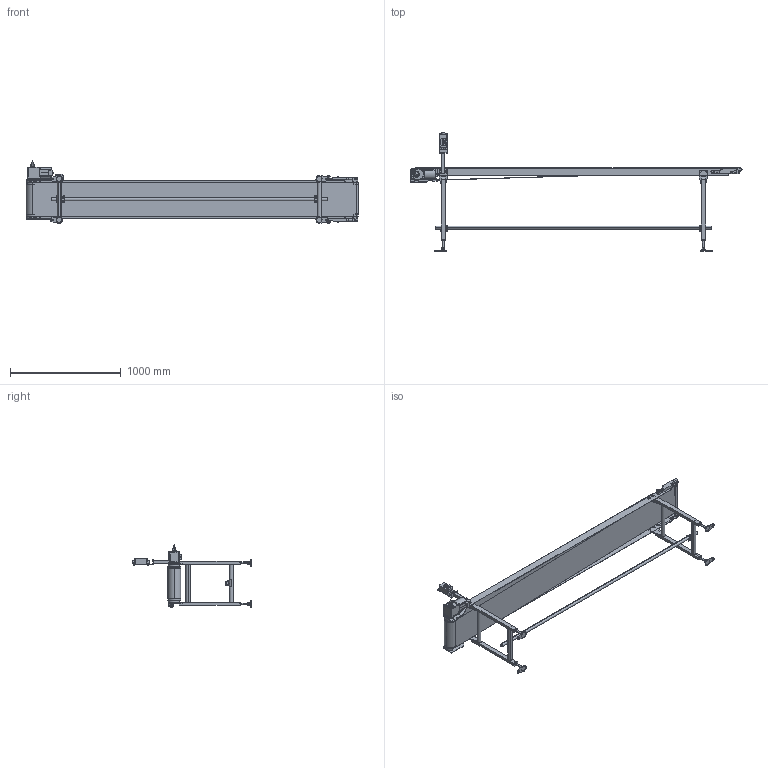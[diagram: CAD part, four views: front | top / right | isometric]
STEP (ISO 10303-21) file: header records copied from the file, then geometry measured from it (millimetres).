
FILE_DESCRIPTION( (''), '2;1');
FILE_NAME ('FB23-HS-309-300-300-L-K-100.stp','2025-02-17T10:00:11',(''),(''),'spGate 20.6.2 (****-****-****-****)','','');
FILE_SCHEMA (('AUTOMOTIVE_DESIGN'));
Length unit declared in the file: millimetre
Products named in the file (49): NewModel; FB23-HS-300-3000-L; TEMP_X_T-prt0; TEMP_X_T-prt1; TEMP_X_T-prt2; TEMP_X_T-prt3; TEMP_X_T-prt4; TEMP_X_T-prt5; TEMP_X_T-prt6; TEMP_X_T-prt7; TEMP_X_T-prt8; TEMP_X_T-prt9; TEMP_X_T-prt10; TEMP_X_T-prt11; TEMP_X_T-prt12; TEMP_X_T-prt13; TEMP_X_T-prt14; TEMP_X_T-prt15; TEMP_X_T-prt16; TEMP_X_T-prt17; TEMP_X_T-prt18; TEMP_X_T-prt19; TEMP_X_T-prt20; TEMP_X_T-prt21; TEMP_X_T-prt22; TEMP_X_T-prt23; TEMP_X_T-prt24; TEMP_X_T-prt25; TEMP_X_T-prt26; TEMP_X_T-prt27; TEMP_X_T-prt28; TEMP_X_T-prt29; TEMP_X_T-prt30; TEMP_X_T-prt31; TEMP_X_T-prt32; TEMP_X_T-prt33; TEMP_X_T-prt34; TEMP_X_T-prt35; TEMP_X_T-prt36; TEMP_X_T-prt37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
Assembly tree (48 placements, depth 3):
  NewModel
    FB23-HS-300-3000-L
      TEMP_X_T-prt0
      TEMP_X_T-prt1
      TEMP_X_T-prt2
      TEMP_X_T-prt3
      TEMP_X_T-prt4
      TEMP_X_T-prt5
      TEMP_X_T-prt6
      TEMP_X_T-prt7
      TEMP_X_T-prt8
      TEMP_X_T-prt9
      TEMP_X_T-prt10
      TEMP_X_T-prt11
      TEMP_X_T-prt12
      TEMP_X_T-prt13
      TEMP_X_T-prt14
      TEMP_X_T-prt15
      TEMP_X_T-prt16
      TEMP_X_T-prt17
      TEMP_X_T-prt18
      TEMP_X_T-prt19
      TEMP_X_T-prt20
      TEMP_X_T-prt21
      TEMP_X_T-prt22
      TEMP_X_T-prt23
      TEMP_X_T-prt24
      TEMP_X_T-prt25
      TEMP_X_T-prt26
      TEMP_X_T-prt27
      TEMP_X_T-prt28
      TEMP_X_T-prt29
      TEMP_X_T-prt30
      TEMP_X_T-prt31
      TEMP_X_T-prt32
      TEMP_X_T-prt33
      TEMP_X_T-prt34
      TEMP_X_T-prt35
      TEMP_X_T-prt36
      TEMP_X_T-prt37
      TEMP_X_T-prt38
      TEMP_X_T-prt39
      TEMP_X_T-prt40
      TEMP_X_T-prt41
      TEMP_X_T-prt42
      TEMP_X_T-prt43
      TEMP_X_T-prt44
      TEMP_X_T-prt45
      TEMP_X_T-prt46
Bounding box: 2999.71 x 1069.5 x 568.7 mm (x, y, z)
Volume: 16705812.2 mm3; surface area: 7970903.9 mm2
Topology: 47 solids, 47 shells, 1561 faces, 3826 edges, 2476 vertices
Faces by surface type: plane 956, cylinder 494, bspline 105, sphere 6
Entity records: 80279 total; most frequent: CARTESIAN_POINT 11407, DIRECTION 7602, ORIENTED_EDGE 7582, COLOUR_RGB 5398, PRESENTATION_STYLE_ASSIGNMENT 5398, STYLED_ITEM 5398, EDGE_CURVE 3791, DRAUGHTING_PRE_DEFINED_CURVE_FONT 3791
